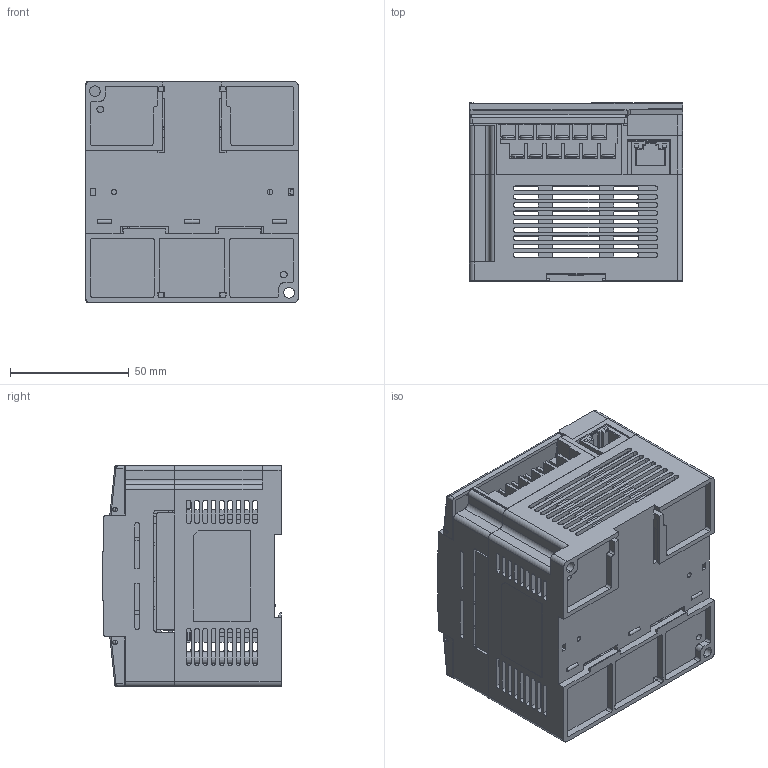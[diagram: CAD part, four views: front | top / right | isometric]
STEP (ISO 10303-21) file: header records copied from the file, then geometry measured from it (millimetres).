
FILE_DESCRIPTION (( 'STEP AP203' ), '1' );
FILE_NAME ('CM3-SB16MDTF(MDCF).STEP', '2025-07-16T07:48:43', ( '' ), ( '' ), 'SwSTEP 2.0', 'SolidWorks 2024', '' );
FILE_SCHEMA (( 'CONFIG_CONTROL_DESIGN' ));
Length unit declared in the file: millimetre
Products named in the file (1): CM3-SB16MDTF(MDCF)
Bounding box: 89.8 x 75.16 x 93.26 mm (x, y, z)
Volume: 111561 mm3; surface area: 122509.7 mm2
Topology: 1 solids, 3 shells, 2693 faces, 7705 edges, 5018 vertices
Faces by surface type: plane 1900, cylinder 591, torus 107, sphere 62, bspline 21, cone 12
Entity records: 90518 total; most frequent: CARTESIAN_POINT 19035, ORIENTED_EDGE 15376, DIRECTION 14279, EDGE_CURVE 7688, VECTOR 5731, LINE 5731, VERTEX_POINT 5012, AXIS2_PLACEMENT_3D 4274
